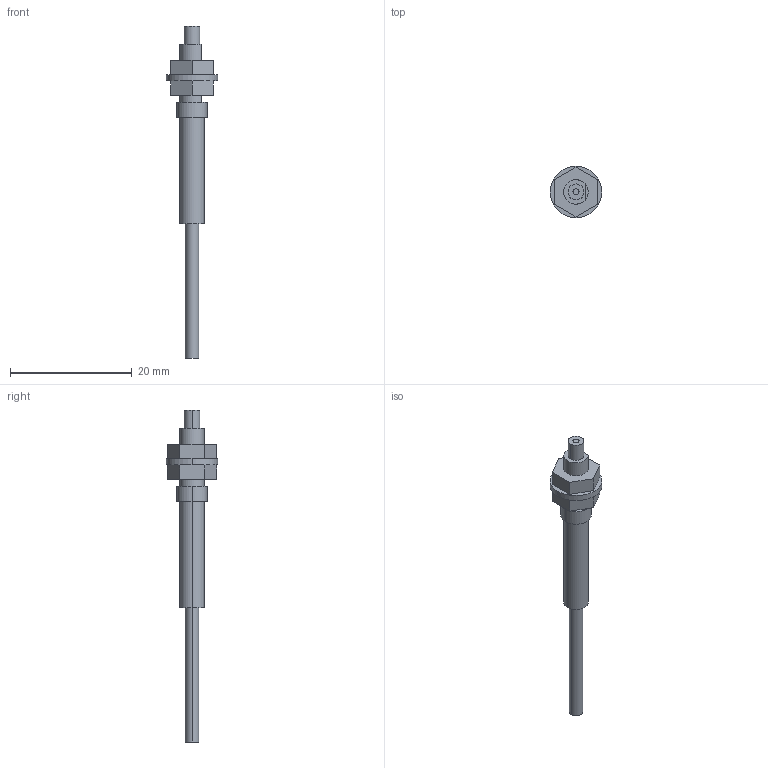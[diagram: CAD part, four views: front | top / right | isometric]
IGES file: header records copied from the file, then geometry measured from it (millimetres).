
Start section: SolidWorks IGES FILE using analytic representation for surfaces
Global section: file name: \\intra-srv04\開発データ\CAD_Data\CAD委員会\3D電子ｶﾀﾛｸﾞ\製品カタログ（新）\0_IGES\FT-W8.IGS,41HSolidWorks 2004; native system: by SolidWorks Corporation; preprocessor: Version 5.3; author: mf1158; date: 050905.154444; units: millimetre
Bounding box: 8.5 x 8.5 x 54.5 mm (x, y, z)
Volume: 666.8 mm3; surface area: 1016.2 mm2
Topology: 4 solids, 4 shells, 45 faces, 96 edges, 64 vertices
Faces by surface type: plane 26, revolution 19
